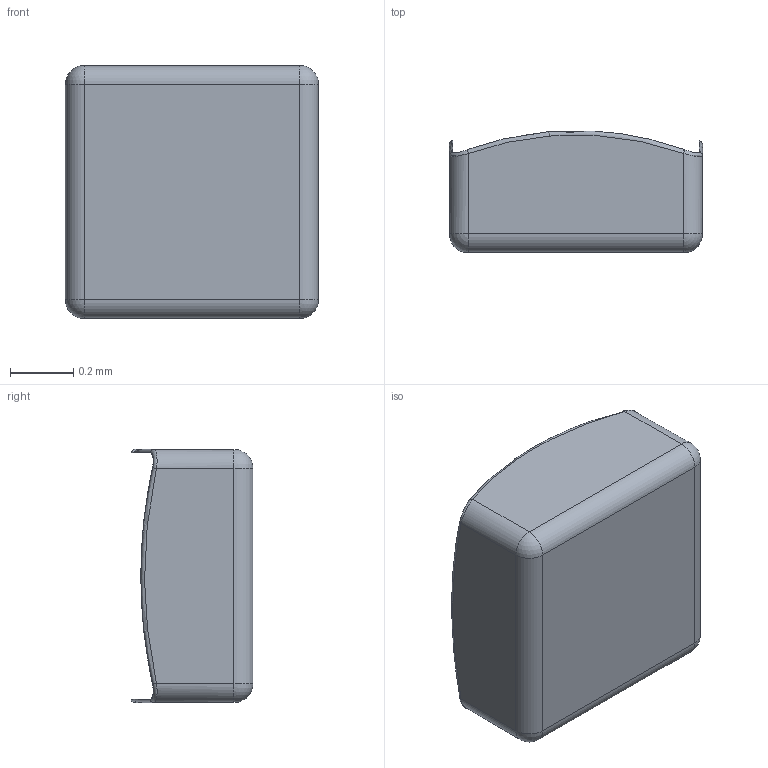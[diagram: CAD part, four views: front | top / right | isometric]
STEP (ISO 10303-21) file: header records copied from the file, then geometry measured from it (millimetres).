
FILE_DESCRIPTION(/* description */ ('STEP AP242 Edition 2','CAx-IF Rec.Pracs.---Representation and Presentation of Product Manufacturing Information (PMI)---4.0---2014-10-13','CAx-IF Rec.Pracs.---3D Tessellated Geometry---0.4---2014-09-14','2;1','CAx-IF Rec.Pracs.---User Defined Attributes---1.5---2016-08-15'),/* implementation_level */ '2;1');
FILE_NAME(/* name */ 'Drone Layout - Surface 404',/* time_stamp */ '2026-10-04T22:22:59Z',/* author */ (''),/* organization */ (''),/* preprocessor_version */ 'ST-DEVELOPER v20',/* originating_system */ 'ONSHAPE BY PTC INC, 1.221',/* authorisation */ ' ');
FILE_SCHEMA (('AP242_MANAGED_MODEL_BASED_3D_ENGINEERING_MIM_LF { 1 0 10303 442 3 1 4 }'));
Length unit declared in the file: metre
Products named in the file (1): Pin2:1__Body1
Bounding box: 0.8 x 0.39 x 0.8 mm (x, y, z)
Volume: 0.1 mm3; surface area: 3 mm2
Topology: 1 solids, 1 shells, 37 faces, 93 edges, 54 vertices
Faces by surface type: cylinder 13, plane 10, torus 8, sphere 6
Entity records: 1109 total; most frequent: CARTESIAN_POINT 310, ORIENTED_EDGE 178, DIRECTION 140, EDGE_CURVE 89, AXIS2_PLACEMENT_3D 56, VERTEX_POINT 54, B_SPLINE_CURVE_WITH_KNOTS 43, EDGE_LOOP 37
